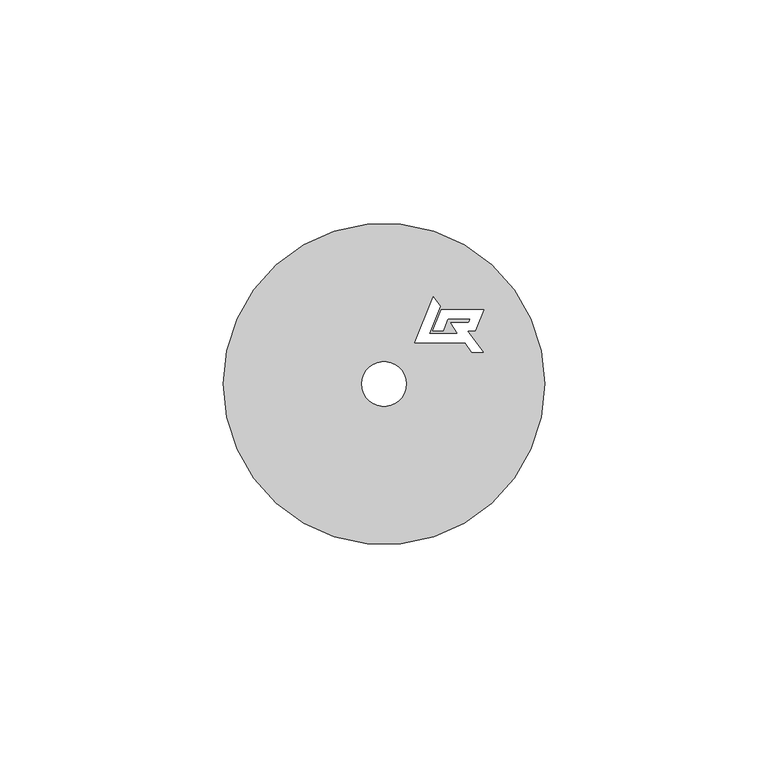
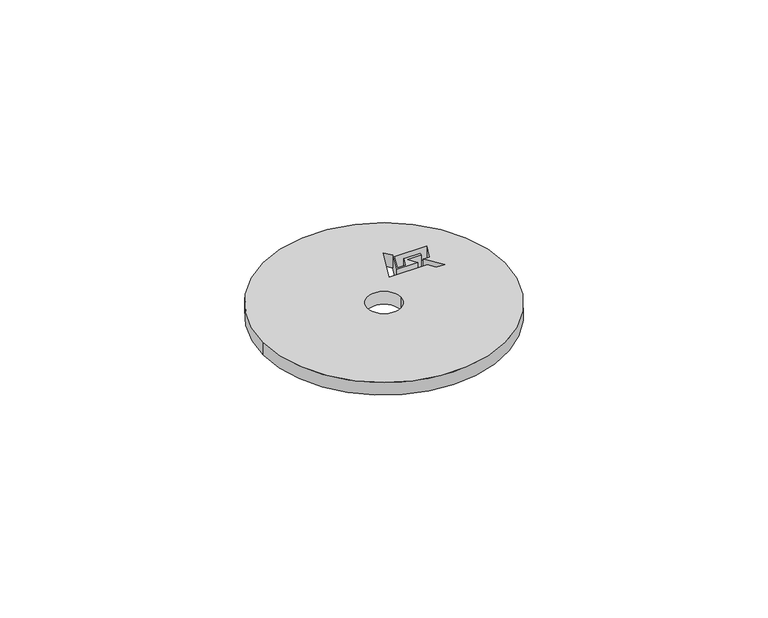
"""IFC4 building model written with IfcOpenShell, lengths in millimetres: alarm geometry, RBZ_Программное обеспечение_Рубеж_FireSec_ОперативнаяЗадача : ПО ОПС «FireSec» Оперативная задача."""

from ifc_helpers import new_model, si_unit, point, origin, origin_with_axes, origin_2d, place, context, project, spatial, polyline, circle_curve, trimmed, segment, composite_curve, outline, extrude, source, transform, mapped, element, save


def alarm_76d4db1c(model_context):
    return source(origin(), model_context, "Body", "SweptSolid", [
        extrude(outline(composite_curve([segment(trimmed(circle_curve(origin_2d(), 36.0), [point((-36.0, 0.0))], [point((36.0, 0.0))], False, "CARTESIAN"), True, "CONTINUOUS"), segment(trimmed(circle_curve(origin_2d(), 36.0), [point((36.0, 0.0))], [point((-36.0, 0.0))], False, "CARTESIAN"), True, "CONTINUOUS")], self_intersect=False), holes=[composite_curve([segment(trimmed(circle_curve(origin_2d(), 5.0), [point((-5.0, 0.0))], [point((5.0, 0.0))], True, "CARTESIAN"), True, "CONTINUOUS"), segment(trimmed(circle_curve(origin_2d(), 5.0), [point((5.0, 0.0))], [point((-5.0, 0.0))], True, "CARTESIAN"), True, "CONTINUOUS")], self_intersect=False), polyline([(12.8347708, 16.613687), (10.960702, 11.9752038), (13.2632039, 11.9752038), (14.3192544, 14.5890206), (19.3326723, 14.5890206), (18.9893603, 13.7392936), (14.9531343, 13.7392936), (16.5596752, 11.2654376), (10.1213614, 11.2654376), (12.5906647, 17.3771777), (11.0559178, 19.4895756), (6.9227435, 9.2596101), (18.2154496, 9.2596101), (19.6264618, 7.0868418), (22.2126945, 7.0868418), (18.6610916, 11.9752038), (20.4751604, 11.9752038), (22.3492293, 16.613687), (12.8347708, 16.613687)])]), origin_with_axes(), (0.0, 0.0, 1.0), 4.0),
    ])


if __name__ == "__main__":
    model = new_model("IFC4")
    model_context = context("Model", 3, world=origin())
    ifc_project = project(units=[si_unit("LENGTHUNIT", "METRE", prefix="MILLI")], contexts=[model_context])
    site = spatial("IfcSite", under=ifc_project)
    building = spatial("IfcBuilding", under=site)
    placement = place(None, origin())
    alarm_shape = alarm_76d4db1c(model_context)
    element("IfcAlarm", 1, ObjectType="RBZ_Программное обеспечение_Рубеж_FireSec_ОперативнаяЗадача : ПО ОПС «FireSec» Оперативная задача", at=placement, inside=building, context=model_context, shape_type="MappedRepresentation", body=[
        mapped(alarm_shape, transform((0.0, 0.0, 0.0), x_axis=(1.0, 0.0, 0.0), y_axis=(0.0, 1.0, 0.0), z_axis=(0.0, 0.0, 1.0))),
    ])
    save(model, "model.ifc")
